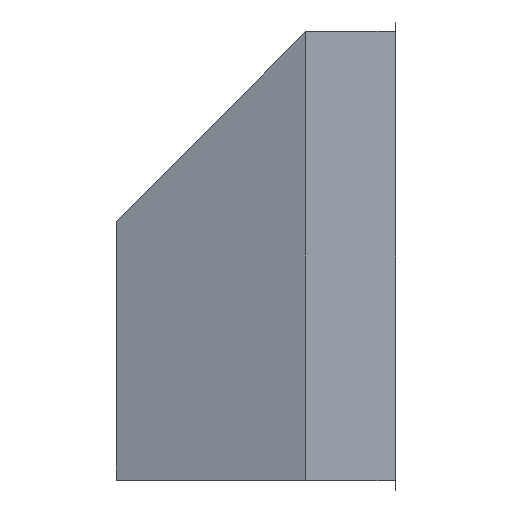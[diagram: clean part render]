
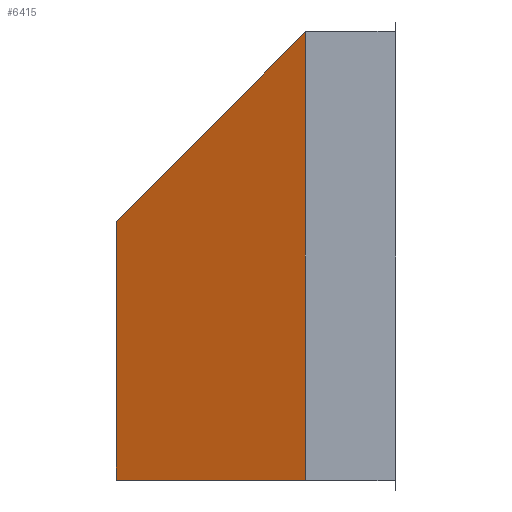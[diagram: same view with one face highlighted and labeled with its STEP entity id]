
A CAD part, left-side view. The second image highlights one B-rep face of the part: STEP entity #6415.
In plain terms, the highlighted planar face has unit normal (-0.94, 0.342, 0).
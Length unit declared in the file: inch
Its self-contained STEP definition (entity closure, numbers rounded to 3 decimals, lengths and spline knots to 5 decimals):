
#361=DIRECTION('',(-0.249,-0.685,0.685));
#362=VECTOR('',#361,13.87284);
#363=CARTESIAN_POINT('',(-19.70578,14.,13.));
#364=LINE('',#363,#362);
#477=DIRECTION('',(-0.342,-0.94,0.));
#478=VECTOR('',#477,10.10969);
#479=CARTESIAN_POINT('',(-19.70578,14.,0.));
#480=LINE('',#479,#478);
#498=DIRECTION('',(0.,0.,1.));
#499=VECTOR('',#498,13.);
#500=CARTESIAN_POINT('',(-19.70578,14.,0.));
#501=LINE('',#500,#499);
#512=DIRECTION('',(0.,0.,1.));
#513=VECTOR('',#512,22.5);
#514=CARTESIAN_POINT('',(-23.1635,4.5,0.));
#515=LINE('',#514,#513);
#5393=CARTESIAN_POINT('',(-23.1635,4.5,0.));
#5394=CARTESIAN_POINT('',(-23.1635,4.5,22.5));
#5395=VERTEX_POINT('',#5393);
#5396=VERTEX_POINT('',#5394);
#5397=CARTESIAN_POINT('',(-19.70578,14.,0.));
#5398=CARTESIAN_POINT('',(-19.70578,14.,13.));
#5399=VERTEX_POINT('',#5397);
#5400=VERTEX_POINT('',#5398);
#6403=CARTESIAN_POINT('',(-19.70578,14.,0.));
#6404=DIRECTION('',(-0.94,0.342,0.));
#6405=DIRECTION('',(-0.342,-0.94,0.));
#6406=AXIS2_PLACEMENT_3D('',#6403,#6404,#6405);
#6407=PLANE('',#6406);
#6409=ORIENTED_EDGE('',*,*,#6408,.F.);
#6410=ORIENTED_EDGE('',*,*,#6380,.F.);
#6411=ORIENTED_EDGE('',*,*,#6396,.T.);
#6412=ORIENTED_EDGE('',*,*,#6263,.T.);
#6413=EDGE_LOOP('',(#6409,#6410,#6411,#6412));
#6414=FACE_OUTER_BOUND('',#6413,.F.);
#6415=ADVANCED_FACE('',(#6414),#6407,.T.);
#6263=EDGE_CURVE('',#5400,#5396,#364,.T.);
#6380=EDGE_CURVE('',#5399,#5395,#480,.T.);
#6396=EDGE_CURVE('',#5399,#5400,#501,.T.);
#6408=EDGE_CURVE('',#5395,#5396,#515,.T.);
